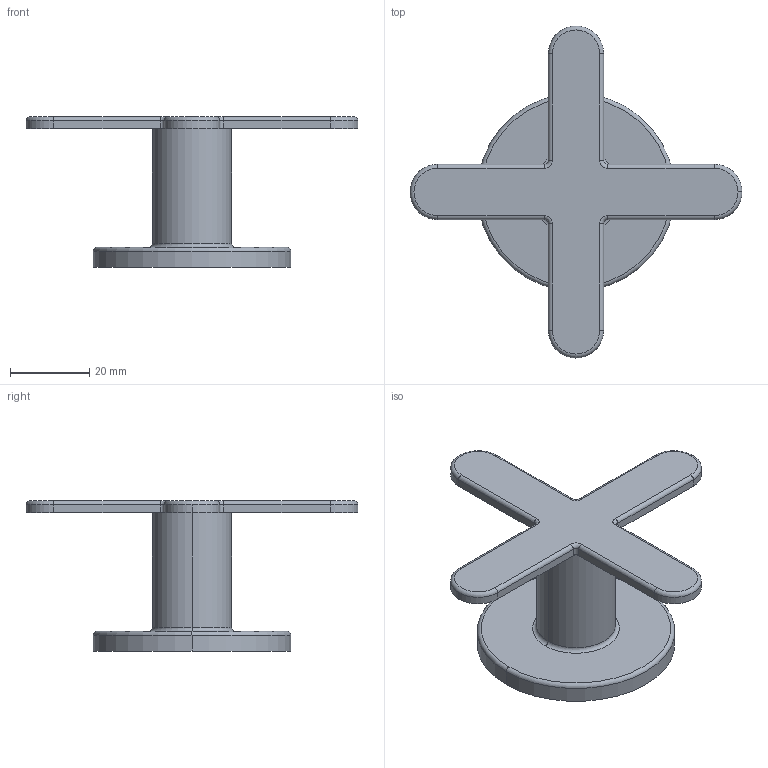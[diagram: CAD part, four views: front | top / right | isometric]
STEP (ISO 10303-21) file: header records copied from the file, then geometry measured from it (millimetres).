
FILE_DESCRIPTION (( 'STEP AP203' ), '1' );
FILE_NAME ('AZ 72 (1).STEP', '2019-01-30T15:41:01', ( '' ), ( '' ), 'SwSTEP 2.0', 'SolidWorks 2019', '' );
FILE_SCHEMA (( 'CONFIG_CONTROL_DESIGN' ));
Length unit declared in the file: millimetre
Products named in the file (1): AZ 72 (1)
Bounding box: 84 x 84 x 38 mm (x, y, z)
Volume: 25374.6 mm3; surface area: 10817.2 mm2
Topology: 1 solids, 1 shells, 46 faces, 106 edges, 64 vertices
Faces by surface type: cylinder 21, torus 13, plane 12
Entity records: 1388 total; most frequent: DIRECTION 261, CARTESIAN_POINT 217, ORIENTED_EDGE 212, AXIS2_PLACEMENT_3D 108, EDGE_CURVE 106, VERTEX_POINT 64, CIRCLE 61, EDGE_LOOP 48
